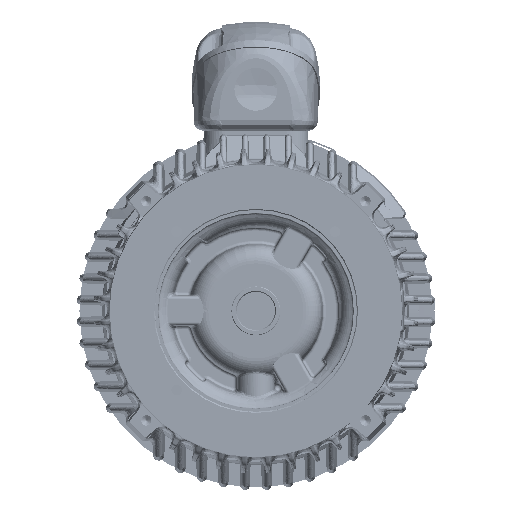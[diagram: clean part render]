
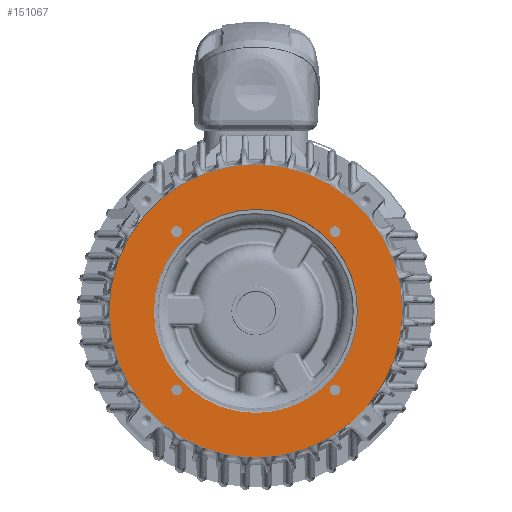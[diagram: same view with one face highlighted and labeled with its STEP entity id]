
A CAD part, front view. The second image highlights one B-rep face of the part: STEP entity #151067.
In plain terms, the highlighted planar face has unit normal (0, -1, 0) as drawn and (0, 0, -1) by its records, which use the part's own axes.
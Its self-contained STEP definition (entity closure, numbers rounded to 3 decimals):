
#90892=CARTESIAN_POINT('',(0.,0.,-5.189));
#90893=DIRECTION('',(0.,0.,1.));
#90894=DIRECTION('',(0.,1.,0.));
#90895=AXIS2_PLACEMENT_3D('',#90892,#90893,#90894);
#90905=CARTESIAN_POINT('',(0.,0.,-5.189));
#90906=DIRECTION('',(0.,0.,-1.));
#90907=DIRECTION('',(0.,1.,0.));
#90908=AXIS2_PLACEMENT_3D('',#90905,#90906,#90907);
#90910=CARTESIAN_POINT('',(0.,0.,-5.189));
#90911=DIRECTION('',(0.,0.,1.));
#90912=DIRECTION('',(0.,1.,0.));
#90913=AXIS2_PLACEMENT_3D('',#90910,#90911,#90912);
#90915=CARTESIAN_POINT('',(0.,0.,-5.189));
#90916=DIRECTION('',(0.,0.,1.));
#90917=DIRECTION('',(0.,-1.,0.));
#90918=AXIS2_PLACEMENT_3D('',#90915,#90916,#90917);
#90920=CARTESIAN_POINT('',(3.226,3.226,-5.189));
#90921=DIRECTION('',(0.,0.,1.));
#90922=DIRECTION('',(1.,0.,0.));
#90923=AXIS2_PLACEMENT_3D('',#90920,#90921,#90922);
#90925=CARTESIAN_POINT('',(3.226,3.226,-5.189));
#90926=DIRECTION('',(0.,0.,1.));
#90927=DIRECTION('',(-1.,0.,0.));
#90928=AXIS2_PLACEMENT_3D('',#90925,#90926,#90927);
#90930=CARTESIAN_POINT('',(3.226,-3.226,-5.189));
#90931=DIRECTION('',(0.,0.,1.));
#90932=DIRECTION('',(1.,0.,0.));
#90933=AXIS2_PLACEMENT_3D('',#90930,#90931,#90932);
#90935=CARTESIAN_POINT('',(3.226,-3.226,-5.189));
#90936=DIRECTION('',(0.,0.,1.));
#90937=DIRECTION('',(-1.,0.,0.));
#90938=AXIS2_PLACEMENT_3D('',#90935,#90936,#90937);
#90940=CARTESIAN_POINT('',(-3.226,-3.226,-5.189));
#90941=DIRECTION('',(0.,0.,1.));
#90942=DIRECTION('',(1.,0.,0.));
#90943=AXIS2_PLACEMENT_3D('',#90940,#90941,#90942);
#90945=CARTESIAN_POINT('',(-3.226,-3.226,-5.189));
#90946=DIRECTION('',(0.,0.,1.));
#90947=DIRECTION('',(-1.,0.,0.));
#90948=AXIS2_PLACEMENT_3D('',#90945,#90946,#90947);
#90950=CARTESIAN_POINT('',(-3.226,3.226,-5.189));
#90951=DIRECTION('',(0.,0.,1.));
#90952=DIRECTION('',(1.,0.,0.));
#90953=AXIS2_PLACEMENT_3D('',#90950,#90951,#90952);
#90955=CARTESIAN_POINT('',(-3.226,3.226,-5.189));
#90956=DIRECTION('',(0.,0.,1.));
#90957=DIRECTION('',(-1.,0.,0.));
#90958=AXIS2_PLACEMENT_3D('',#90955,#90956,#90957);
#117823=CARTESIAN_POINT('',(0.,4.156,-5.189));
#117824=VERTEX_POINT('',#117823);
#117827=CARTESIAN_POINT('',(0.,-4.156,-5.189));
#117828=VERTEX_POINT('',#117827);
#117841=CARTESIAN_POINT('',(3.445,3.226,-5.189));
#117842=CARTESIAN_POINT('',(3.007,3.226,-5.189));
#117843=VERTEX_POINT('',#117841);
#117844=VERTEX_POINT('',#117842);
#117849=CARTESIAN_POINT('',(3.445,-3.226,-5.189));
#117850=CARTESIAN_POINT('',(3.007,-3.226,-5.189));
#117851=VERTEX_POINT('',#117849);
#117852=VERTEX_POINT('',#117850);
#117857=CARTESIAN_POINT('',(-3.007,-3.226,-5.189));
#117858=CARTESIAN_POINT('',(-3.445,-3.226,-5.189));
#117859=VERTEX_POINT('',#117857);
#117860=VERTEX_POINT('',#117858);
#117865=CARTESIAN_POINT('',(-3.007,3.226,-5.189));
#117866=CARTESIAN_POINT('',(-3.445,3.226,-5.189));
#117867=VERTEX_POINT('',#117865);
#117868=VERTEX_POINT('',#117866);
#120287=CARTESIAN_POINT('',(0.,5.963,-5.189));
#120288=CARTESIAN_POINT('',(0.,-5.963,-5.189));
#120289=VERTEX_POINT('',#120287);
#120290=VERTEX_POINT('',#120288);
#151028=CARTESIAN_POINT('',(0.,0.,-5.189));
#151029=DIRECTION('',(0.,0.,1.));
#151030=DIRECTION('',(0.,1.,0.));
#151031=AXIS2_PLACEMENT_3D('',#151028,#151029,#151030);
#151032=PLANE('',#151031);
#151034=ORIENTED_EDGE('',*,*,#151033,.T.);
#151036=ORIENTED_EDGE('',*,*,#151035,.T.);
#151037=EDGE_LOOP('',(#151034,#151036));
#151038=FACE_OUTER_BOUND('',#151037,.F.);
#151039=ORIENTED_EDGE('',*,*,#151023,.T.);
#151040=ORIENTED_EDGE('',*,*,#151007,.F.);
#151041=EDGE_LOOP('',(#151039,#151040));
#151042=FACE_BOUND('',#151041,.F.);
#151044=ORIENTED_EDGE('',*,*,#151043,.F.);
#151046=ORIENTED_EDGE('',*,*,#151045,.F.);
#151047=EDGE_LOOP('',(#151044,#151046));
#151048=FACE_BOUND('',#151047,.F.);
#151050=ORIENTED_EDGE('',*,*,#151049,.F.);
#151052=ORIENTED_EDGE('',*,*,#151051,.F.);
#151053=EDGE_LOOP('',(#151050,#151052));
#151054=FACE_BOUND('',#151053,.F.);
#151056=ORIENTED_EDGE('',*,*,#151055,.F.);
#151058=ORIENTED_EDGE('',*,*,#151057,.F.);
#151059=EDGE_LOOP('',(#151056,#151058));
#151060=FACE_BOUND('',#151059,.F.);
#151062=ORIENTED_EDGE('',*,*,#151061,.F.);
#151064=ORIENTED_EDGE('',*,*,#151063,.F.);
#151065=EDGE_LOOP('',(#151062,#151064));
#151066=FACE_BOUND('',#151065,.F.);
#151067=ADVANCED_FACE('',(#151038,#151042,#151048,#151054,#151060,#151066),
#151032,.F.);
#90896=CIRCLE('',#90895,4.156);
#90909=CIRCLE('',#90908,4.156);
#90914=CIRCLE('',#90913,5.963);
#90919=CIRCLE('',#90918,5.963);
#90924=CIRCLE('',#90923,0.219);
#90929=CIRCLE('',#90928,0.219);
#90934=CIRCLE('',#90933,0.219);
#90939=CIRCLE('',#90938,0.219);
#90944=CIRCLE('',#90943,0.219);
#90949=CIRCLE('',#90948,0.219);
#90954=CIRCLE('',#90953,0.219);
#90959=CIRCLE('',#90958,0.219);
#151007=EDGE_CURVE('',#117824,#117828,#90896,.T.);
#151023=EDGE_CURVE('',#117824,#117828,#90909,.T.);
#151033=EDGE_CURVE('',#120289,#120290,#90914,.T.);
#151035=EDGE_CURVE('',#120290,#120289,#90919,.T.);
#151043=EDGE_CURVE('',#117843,#117844,#90924,.T.);
#151045=EDGE_CURVE('',#117844,#117843,#90929,.T.);
#151049=EDGE_CURVE('',#117851,#117852,#90934,.T.);
#151051=EDGE_CURVE('',#117852,#117851,#90939,.T.);
#151055=EDGE_CURVE('',#117859,#117860,#90944,.T.);
#151057=EDGE_CURVE('',#117860,#117859,#90949,.T.);
#151061=EDGE_CURVE('',#117867,#117868,#90954,.T.);
#151063=EDGE_CURVE('',#117868,#117867,#90959,.T.);
